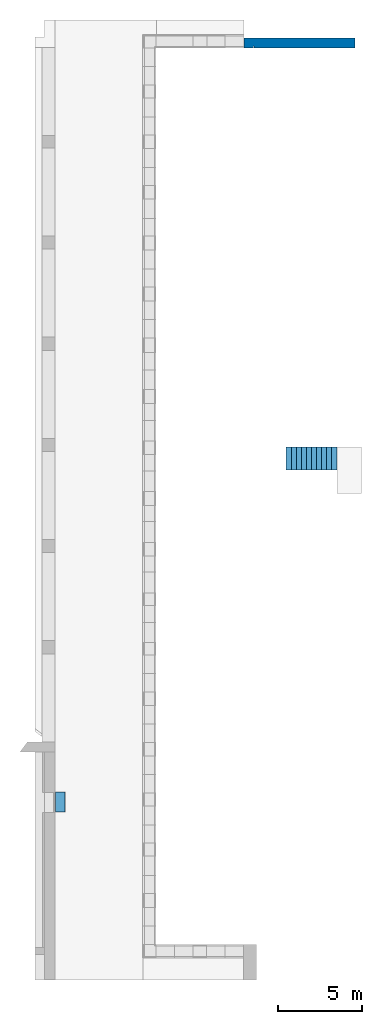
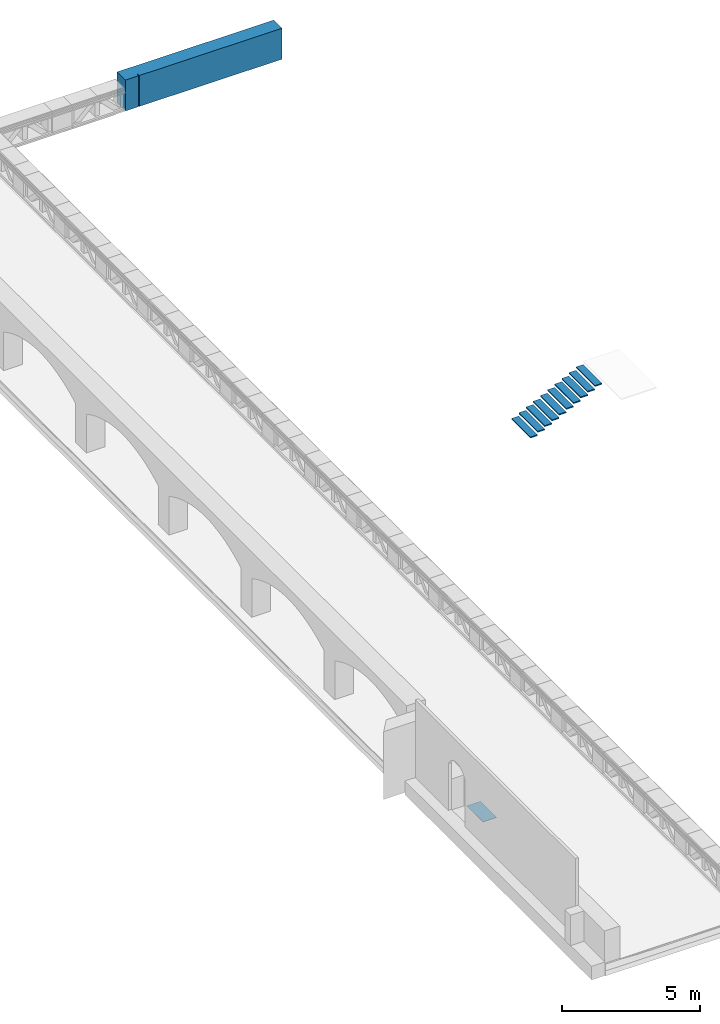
# One storey, part 2 of 9: 1 discrete accessory, 1 stair flight, 1 wall, 1 opening, 1 element without a shape of its own.
"""IFC2X3 building model written with IfcOpenShell, lengths in millimetres."""

from ifc_helpers import new_model, entity, si_unit, converted_unit, derived_unit, direction, frame, frame_2d, origin, origin_2d_with_axis, place, context, subcontext, project, spatial, rectangle, extrude, source, transform, mapped, material, layer, layer_set, layer_usage, type_object, type_shapes, element, aggregate, save


model = new_model("IFC2X3")

# Units and contexts
model_context = context("Model", 3, precision=0.01, world=origin(), true_north=direction((6.123031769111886e-17, 1.0)))
body_context = subcontext(model_context, "Body", "Model", "MODEL_VIEW")
ifc_project = project(units=[si_unit("LENGTHUNIT", "METRE", prefix="MILLI"), si_unit("AREAUNIT", "SQUARE_METRE"), si_unit("VOLUMEUNIT", "CUBIC_METRE"), converted_unit("PLANEANGLEUNIT", "DEGREE", entity("IfcPlaneAngleMeasure", 0.017453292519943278), si_unit("PLANEANGLEUNIT", "RADIAN"), dimensions=[0, 0, 0, 0, 0, 0, 0]), si_unit("MASSUNIT", "GRAM", prefix="KILO"), derived_unit("MASSDENSITYUNIT", [(si_unit("MASSUNIT", "GRAM", prefix="KILO"), 1), (si_unit("LENGTHUNIT", "METRE"), -3)]), derived_unit("IONCONCENTRATIONUNIT", [(si_unit("MASSUNIT", "GRAM", prefix="KILO"), 1), (si_unit("LENGTHUNIT", "METRE"), -3)]), derived_unit("MOMENTOFINERTIAUNIT", [(si_unit("LENGTHUNIT", "METRE"), 4)]), si_unit("TIMEUNIT", "SECOND"), si_unit("FREQUENCYUNIT", "HERTZ"), si_unit("THERMODYNAMICTEMPERATUREUNIT", "DEGREE_CELSIUS"), derived_unit("THERMALTRANSMITTANCEUNIT", [(si_unit("MASSUNIT", "GRAM", prefix="KILO"), 1), (si_unit("THERMODYNAMICTEMPERATUREUNIT", "KELVIN"), -1), (si_unit("TIMEUNIT", "SECOND"), -3)]), derived_unit("THERMALCONDUCTANCEUNIT", [(si_unit("MASSUNIT", "GRAM", prefix="KILO"), 1), (si_unit("THERMODYNAMICTEMPERATUREUNIT", "KELVIN"), -1), (si_unit("TIMEUNIT", "SECOND"), -3), (si_unit("LENGTHUNIT", "METRE"), 1)]), derived_unit("VOLUMETRICFLOWRATEUNIT", [(si_unit("LENGTHUNIT", "METRE", prefix="DECI"), 3), (si_unit("TIMEUNIT", "SECOND"), -1)]), derived_unit("MASSFLOWRATEUNIT", [(si_unit("MASSUNIT", "GRAM", prefix="KILO"), 1), (si_unit("TIMEUNIT", "SECOND"), -1)]), derived_unit("ROTATIONALFREQUENCYUNIT", [(si_unit("TIMEUNIT", "SECOND"), -1)]), si_unit("ELECTRICCURRENTUNIT", "AMPERE"), si_unit("ELECTRICVOLTAGEUNIT", "VOLT"), si_unit("POWERUNIT", "WATT"), si_unit("FORCEUNIT", "NEWTON", prefix="KILO"), si_unit("ILLUMINANCEUNIT", "LUX"), si_unit("LUMINOUSFLUXUNIT", "LUMEN"), si_unit("LUMINOUSINTENSITYUNIT", "CANDELA"), si_unit("ENERGYUNIT", "JOULE"), derived_unit("USERDEFINED", [(si_unit("MASSUNIT", "GRAM", prefix="KILO"), -1), (si_unit("LENGTHUNIT", "METRE"), -2), (si_unit("TIMEUNIT", "SECOND"), 3), (si_unit("LUMINOUSFLUXUNIT", "LUMEN"), 1)]), derived_unit("USERDEFINED", [(si_unit("MASSUNIT", "GRAM", prefix="KILO"), 1), (si_unit("TIMEUNIT", "SECOND"), -3), (si_unit("LENGTHUNIT", "METRE"), 3), (si_unit("ELECTRICCURRENTUNIT", "AMPERE"), -2)]), derived_unit("SOUNDPOWERUNIT", [(si_unit("MASSUNIT", "GRAM", prefix="KILO"), 1), (si_unit("TIMEUNIT", "SECOND"), -3), (si_unit("LENGTHUNIT", "METRE"), 2)]), derived_unit("SOUNDPRESSUREUNIT", [(si_unit("MASSUNIT", "GRAM", prefix="KILO"), 1), (si_unit("LENGTHUNIT", "METRE"), -1), (si_unit("TIMEUNIT", "SECOND"), -2)]), derived_unit("LINEARVELOCITYUNIT", [(si_unit("LENGTHUNIT", "METRE"), 1), (si_unit("TIMEUNIT", "SECOND"), -1)]), si_unit("PRESSUREUNIT", "PASCAL"), derived_unit("USERDEFINED", [(si_unit("MASSUNIT", "GRAM", prefix="KILO"), 1), (si_unit("LENGTHUNIT", "METRE"), -2), (si_unit("TIMEUNIT", "SECOND"), -2)]), derived_unit("LINEARFORCEUNIT", [(si_unit("MASSUNIT", "GRAM", prefix="KILO"), 1), (si_unit("TIMEUNIT", "SECOND"), -2)]), derived_unit("PLANARFORCEUNIT", [(si_unit("MASSUNIT", "GRAM", prefix="KILO"), 1), (si_unit("LENGTHUNIT", "METRE"), -1), (si_unit("TIMEUNIT", "SECOND"), -2)]), derived_unit("SPECIFICHEATCAPACITYUNIT", [(si_unit("THERMODYNAMICTEMPERATUREUNIT", "KELVIN"), -1), (si_unit("LENGTHUNIT", "METRE"), 2), (si_unit("TIMEUNIT", "SECOND"), -2)]), derived_unit("HEATFLUXDENSITYUNIT", [(si_unit("MASSUNIT", "GRAM", prefix="KILO"), 1), (si_unit("TIMEUNIT", "SECOND"), -3)]), derived_unit("HEATINGVALUEUNIT", [(si_unit("LENGTHUNIT", "METRE"), 2), (si_unit("TIMEUNIT", "SECOND"), -2)]), derived_unit("VAPORPERMEABILITYUNIT", [(si_unit("LENGTHUNIT", "METRE"), -1), (si_unit("TIMEUNIT", "SECOND"), 1)]), derived_unit("DYNAMICVISCOSITYUNIT", [(si_unit("MASSUNIT", "GRAM", prefix="KILO"), 1), (si_unit("TIMEUNIT", "SECOND"), -1), (si_unit("LENGTHUNIT", "METRE"), -1)]), derived_unit("THERMALEXPANSIONCOEFFICIENTUNIT", [(si_unit("THERMODYNAMICTEMPERATUREUNIT", "KELVIN"), -1)]), derived_unit("MODULUSOFELASTICITYUNIT", [(si_unit("MASSUNIT", "GRAM", prefix="KILO"), 1), (si_unit("LENGTHUNIT", "METRE"), -1), (si_unit("TIMEUNIT", "SECOND"), -2)]), derived_unit("ISOTHERMALMOISTURECAPACITYUNIT", [(si_unit("MASSUNIT", "GRAM", prefix="KILO"), -1), (si_unit("LENGTHUNIT", "METRE"), 3)]), derived_unit("MOISTUREDIFFUSIVITYUNIT", [(si_unit("TIMEUNIT", "SECOND"), -1), (si_unit("LENGTHUNIT", "METRE"), 2)]), derived_unit("MASSPERLENGTHUNIT", [(si_unit("MASSUNIT", "GRAM", prefix="KILO"), 1), (si_unit("LENGTHUNIT", "METRE"), -1)]), derived_unit("THERMALRESISTANCEUNIT", [(si_unit("MASSUNIT", "GRAM", prefix="KILO"), -1), (si_unit("TIMEUNIT", "SECOND"), 3), (si_unit("THERMODYNAMICTEMPERATUREUNIT", "KELVIN"), 1)]), derived_unit("ACCELERATIONUNIT", [(si_unit("LENGTHUNIT", "METRE"), 1), (si_unit("TIMEUNIT", "SECOND"), -2)]), derived_unit("ANGULARVELOCITYUNIT", [(si_unit("TIMEUNIT", "SECOND"), -1), (si_unit("PLANEANGLEUNIT", "RADIAN"), 1)]), derived_unit("LINEARSTIFFNESSUNIT", [(si_unit("MASSUNIT", "GRAM", prefix="KILO"), 1), (si_unit("TIMEUNIT", "SECOND"), -2)]), derived_unit("WARPINGCONSTANTUNIT", [(si_unit("LENGTHUNIT", "METRE"), 6)]), derived_unit("LINEARMOMENTUNIT", [(si_unit("MASSUNIT", "GRAM", prefix="KILO"), 1), (si_unit("LENGTHUNIT", "METRE"), 1), (si_unit("TIMEUNIT", "SECOND"), -2)]), derived_unit("TORQUEUNIT", [(si_unit("MASSUNIT", "GRAM", prefix="KILO"), 1), (si_unit("LENGTHUNIT", "METRE"), 2), (si_unit("TIMEUNIT", "SECOND"), -2)])], contexts=[model_context])

# Site, building, storey
site_placement = place(None, origin())
site = spatial("IfcSite", under=ifc_project, at=site_placement, Name="Default", CompositionType="ELEMENT")
building_placement = place(site_placement, origin())
building = spatial("IfcBuilding", under=site, at=building_placement, Name="Eesti Rahvusraamatukogu hoone renoveerimise projekteerimistööd", CompositionType="ELEMENT")
storey_placement = place(building_placement, frame((0.0, 0.0, 3100.0)))
storey = spatial("IfcBuildingStorey", under=building, at=storey_placement, Name="E-korpus 2. korrus", CompositionType="ELEMENT", Elevation=3100.0)

# Wall, opening
ifc_material_1 = material(Name="ol. olev materjal")
ifc_layer = layer(ifc_material_1, 600.0)
ifc_layer_set = layer_set([ifc_layer], Name="Basic Wall:ol. olev - 600mm")
ifc_layer_usage = layer_usage(ifc_layer_set, "AXIS2", "NEGATIVE", 300.0)
wall_type = type_object("IfcWallType", Name="Basic Wall:ol. olev - 600mm", PredefinedType="STANDARD", material=ifc_layer_set)
wall_placement = place(storey_placement, frame((-30800.0, 54290.376279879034, 480.0), z_axis=(0.0, 0.0, 1.0), x_axis=(-1.0, 0.0, 0.0)))
wall = element("IfcWallStandardCase", 1, at=wall_placement, inside=storey, type_object=wall_type, material=ifc_layer_usage, Name="Basic Wall:ol. olev - 600mm", ObjectType="Basic Wall:ol. olev - 600mm", context=body_context, shape_type="SweptSolid", body=[
    extrude(rectangle(XDim=6569.999999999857, YDim=600.0000000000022, at=frame_2d((3284.9999999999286, -1.7621459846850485e-12), x_axis=(-1.0, 0.0))), origin(), (0.0, 0.0, 1.0), 1370.0000000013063),
])
opening_placement = place(wall_placement, frame((6010.0, 300.0, 0.0)))
element("IfcOpeningElement", 2, at=opening_placement, cuts=wall, Name="Basic Wall:ol. olev - 600mm", ObjectType="Recess", context=body_context, shape_type="SweptSolid", body=[
    extrude(rectangle(XDim=1370.0000000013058, YDim=30.000000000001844, at=frame_2d((2.2737367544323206e-13, 0.0), x_axis=(1.0, 0.0))), frame((-15.0, -100.0, 685.0), z_axis=(0.0, 1.0, 0.0), x_axis=(0.0, 0.0, 1.0)), (0.0, 0.0, 1.0), 100.00000000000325),
])

# Stair, stair flight
stair_placement = place(storey_placement, origin())
stair = element("IfcStair", 3, at=stair_placement, inside=storey, Name="Assembled Stair:Stair", ObjectType="Assembled Stair:ol. olev trepp 50", ShapeType="STRAIGHT_RUN_STAIR")
stair_flight_type = type_object("IfcStairFlightType", Name="Non-Monolithic Run:ol. olev 50mm tread", PredefinedType="STRAIGHT")
stair_flight_placement = place(stair_placement, frame((-34870.0, 28935.0, 0.0)))
stair_flight = element("IfcStairFlight", 4, at=stair_flight_placement, type_object=stair_flight_type, material=ifc_material_1, Name="Assembled Stair:Stair:4087618 Run 1", ObjectType="Non-Monolithic Run:ol. olev 50mm tread", NumberOfRiser=11, NumberOfTreads=10, RiserHeight=0.48665791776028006, TreadLength=0.984251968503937, context=body_context, shape_type="SweptSolid", body=[
    extrude(rectangle(XDim=299.99999999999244, YDim=1370.0000000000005, at=frame_2d((4.320099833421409e-12, 0.0), x_axis=(1.0, 0.0))), frame((150.0, 685.0, 316.6666666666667), z_axis=(0.0, 0.0, 1.0), x_axis=(-1.0, 0.0, 0.0)), (0.0, 0.0, 1.0), 50.0),
    extrude(rectangle(XDim=300.0000000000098, YDim=1370.0000000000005, at=frame_2d((-4.334310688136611e-12, 2.1600499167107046e-12), x_axis=(1.0, 0.0))), frame((450.0, 685.0, 465.0), z_axis=(0.0, 0.0, 1.0), x_axis=(-1.0, 0.0, 0.0)), (0.0, 0.0, 1.0), 50.0),
    extrude(rectangle(XDim=300.0000000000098, YDim=1370.0000000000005, at=frame_2d((-4.334310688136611e-12, 2.1600499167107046e-12), x_axis=(1.0, 0.0))), frame((750.0, 685.0, 613.3333333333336), z_axis=(0.0, 0.0, 1.0), x_axis=(-1.0, 0.0, 0.0)), (0.0, 0.0, 1.0), 50.0),
    extrude(rectangle(XDim=300.0000000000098, YDim=1370.0000000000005, at=frame_2d((-4.334310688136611e-12, 2.1600499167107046e-12), x_axis=(1.0, 0.0))), frame((1050.0, 685.0, 761.6666666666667), z_axis=(0.0, 0.0, 1.0), x_axis=(-1.0, 0.0, 0.0)), (0.0, 0.0, 1.0), 50.0),
    extrude(rectangle(XDim=300.0000000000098, YDim=1370.0000000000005, at=frame_2d((-4.334310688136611e-12, 2.1600499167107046e-12), x_axis=(1.0, 0.0))), frame((1350.0, 685.0, 910.0), z_axis=(0.0, 0.0, 1.0), x_axis=(-1.0, 0.0, 0.0)), (0.0, 0.0, 1.0), 50.0),
    extrude(rectangle(XDim=300.0000000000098, YDim=1370.0000000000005, at=frame_2d((-4.334310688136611e-12, 2.1600499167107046e-12), x_axis=(1.0, 0.0))), frame((1650.0, 685.0, 1058.3333333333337), z_axis=(0.0, 0.0, 1.0), x_axis=(-1.0, 0.0, 0.0)), (0.0, 0.0, 1.0), 50.0),
    extrude(rectangle(XDim=300.0000000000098, YDim=1370.0000000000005, at=frame_2d((-4.334310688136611e-12, -2.1600499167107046e-12), x_axis=(1.0, 0.0))), frame((1950.0, 685.0, 1206.6666666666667), z_axis=(0.0, 0.0, 1.0), x_axis=(-1.0, 0.0, 0.0)), (0.0, 0.0, 1.0), 50.0),
    extrude(rectangle(XDim=300.0000000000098, YDim=1370.0000000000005, at=frame_2d((-4.334310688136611e-12, -2.1600499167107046e-12), x_axis=(1.0, 0.0))), frame((2250.0, 685.0, 1355.0), z_axis=(0.0, 0.0, 1.0), x_axis=(-1.0, 0.0, 0.0)), (0.0, 0.0, 1.0), 50.0),
    extrude(rectangle(XDim=300.0000000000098, YDim=1370.0000000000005, at=frame_2d((-4.334310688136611e-12, 2.1600499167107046e-12), x_axis=(1.0, 0.0))), frame((2550.0, 685.0, 1503.3333333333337), z_axis=(0.0, 0.0, 1.0), x_axis=(-1.0, 0.0, 0.0)), (0.0, 0.0, 1.0), 50.0),
    extrude(rectangle(XDim=300.0000000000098, YDim=1370.0000000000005, at=frame_2d((-4.334310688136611e-12, 2.1600499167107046e-12), x_axis=(1.0, 0.0))), frame((2850.0, 685.0, 1651.6666666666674), z_axis=(0.0, 0.0, 1.0), x_axis=(-1.0, 0.0, 0.0)), (0.0, 0.0, 1.0), 50.0),
])
aggregate(stair, [stair_flight])

# Discrete accessory
ifc_material_2 = material(Name="EST. Metall. Alumiinium. Värvitud.")
discrete_accessory_type = type_object("IfcDiscreteAccessoryType", Name="Jalapuhastusrest 8:JPR-01", material=ifc_material_2)
shared_shape = source(origin(), body_context, "Body", "SweptSolid", [
    extrude(rectangle(XDim=580.0000000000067, YDim=1180.0000000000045, at=origin_2d_with_axis()), frame((-48280.0, 9240.658350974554, 3515.0), z_axis=(0.0, 0.0, 1.0), x_axis=(-1.0, 0.0, 0.0)), (0.0, 0.0, 1.0), 14.999999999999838),
])
type_shapes(discrete_accessory_type, [shared_shape])
discrete_accessory_placement = place(storey_placement, frame((0.0, 0.0, -3100.0)))
element("IfcDiscreteAccessory", 5, at=discrete_accessory_placement, inside=storey, type_object=discrete_accessory_type, material=ifc_material_2, Name="Jalapuhastusrest 8:JPR-01", ObjectType="Jalapuhastusrest 8:JPR-01", context=body_context, shape_type="MappedRepresentation", body=[
    mapped(shared_shape, transform((0.0, 0.0, 0.0), scale=1.0)),
])

save(model, "model.ifc")
